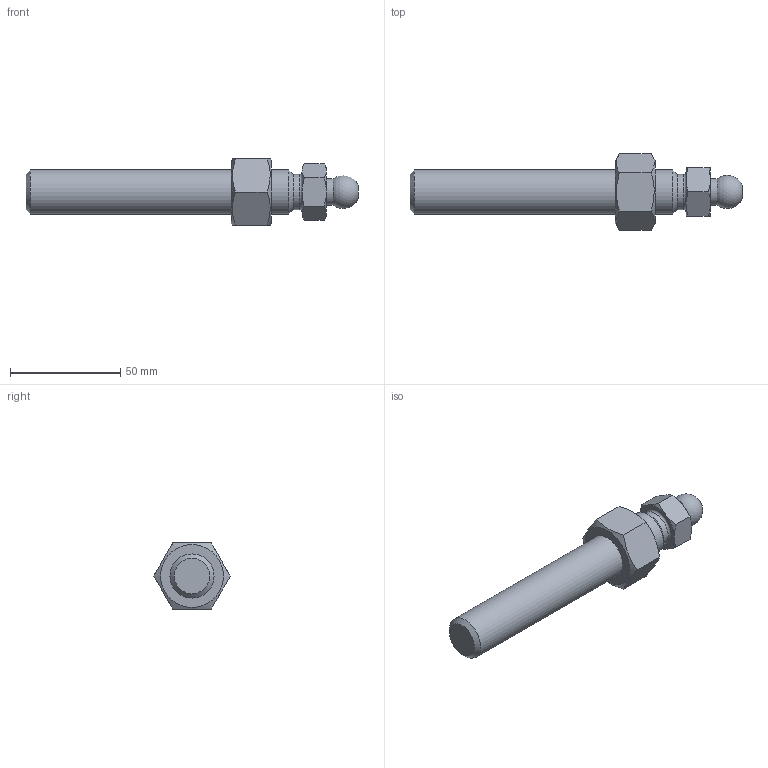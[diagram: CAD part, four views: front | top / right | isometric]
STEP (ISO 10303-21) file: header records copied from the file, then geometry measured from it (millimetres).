
FILE_DESCRIPTION(('STEP AP203'), '1');
FILE_NAME('A00020.120100 ', '', ('UNSPECIFIED'), ('UNSPECIFIED'), 'C3D Converter', 'C3D Toolkit', '');
FILE_SCHEMA(('CONFIG_CONTROL_DESIGN'));
Length unit declared in the file: millimetre
Products named in the file (2): A00020.120100
Assembly tree (1 placements, depth 2):
  A00020.120100
    (unnamed)
Bounding box: 150.3 x 34.64 x 30 mm (x, y, z)
Volume: 53316.3 mm3; surface area: 11580.9 mm2
Topology: 1 solids, 1 shells, 40 faces, 93 edges, 59 vertices
Faces by surface type: plane 18, cone 16, cylinder 4, torus 1, sphere 1
Full cylindrical faces by diameter (mm): 12 x1, 16 x1, 20 x2
Entity records: 2292 total; most frequent: CARTESIAN_POINT 1086, ORIENTED_EDGE 162, DIRECTION 158, EDGE_CURVE 81, AXIS2_PLACEMENT_3D 73, VERTEX_POINT 58, EDGE_LOOP 53, FACE_BOUND 43
